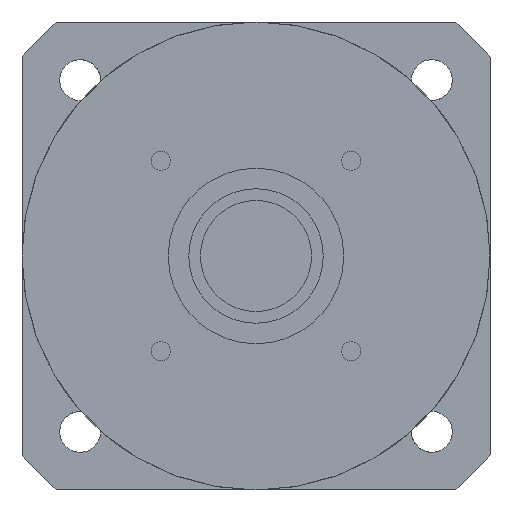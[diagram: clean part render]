
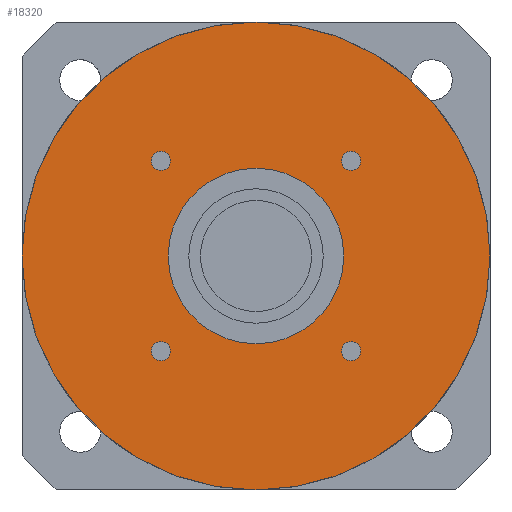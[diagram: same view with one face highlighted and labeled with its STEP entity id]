
A CAD part, left-side view. The second image highlights one B-rep face of the part: STEP entity #18320.
In plain terms, the highlighted planar face has unit normal (-1, 0, 0) as drawn and (0, 0, -1) by its records, which use the part's own axes.
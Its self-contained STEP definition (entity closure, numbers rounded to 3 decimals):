
#13680=CARTESIAN_POINT('',(-17.913,-16.263,-42.));
#13690=VERTEX_POINT('',#13680);
#13740=CARTESIAN_POINT('',(-16.263,-16.263,-42.));
#13750=DIRECTION('',(0.,0.,-1.));
#13760=DIRECTION('',(1.,0.,0.));
#13770=AXIS2_PLACEMENT_3D('',#13740,#13750,#13760);
#13780=CIRCLE('',#13770,1.65);
#13790=CARTESIAN_POINT('',(-14.613,-16.263,-42.));
#13800=VERTEX_POINT('',#13790);
#13810=EDGE_CURVE('',#13800,#13690,#13780,.T.);
#14100=CARTESIAN_POINT('',(14.613,-16.263,-42.));
#14110=VERTEX_POINT('',#14100);
#14140=CARTESIAN_POINT('',(16.263,-16.263,-42.));
#14150=DIRECTION('',(0.,0.,-1.));
#14160=DIRECTION('',(1.,0.,0.));
#14170=AXIS2_PLACEMENT_3D('',#14140,#14150,#14160);
#14180=CIRCLE('',#14170,1.65);
#14190=CARTESIAN_POINT('',(17.913,-16.263,-42.));
#14200=VERTEX_POINT('',#14190);
#14210=EDGE_CURVE('',#14200,#14110,#14180,.T.);
#17440=CARTESIAN_POINT('',(-40.,0.,-42.));
#17450=VERTEX_POINT('',#17440);
#17530=CARTESIAN_POINT('',(40.,0.,-42.));
#17540=VERTEX_POINT('',#17530);
#17570=CARTESIAN_POINT('',(0.,0.,
-42.));
#17580=DIRECTION('',(0.,0.,1.));
#17590=DIRECTION('',(1.,0.,0.));
#17600=AXIS2_PLACEMENT_3D('',#17570,#17580,#17590);
#17610=CIRCLE('',#17600,40.);
#17620=EDGE_CURVE('',#17450,#17540,#17610,.T.);
#17670=CARTESIAN_POINT('',(0.,0.,
-42.));
#17680=DIRECTION('',(0.,0.,-1.));
#17690=DIRECTION('',(1.,0.,0.));
#17700=AXIS2_PLACEMENT_3D('',#17670,#17680,#17690);
#17710=PLANE('',#17700);
#17720=CARTESIAN_POINT('',(-16.263,16.263,-42.));
#17730=DIRECTION('',(0.,0.,-1.));
#17740=DIRECTION('',(1.,0.,0.));
#17750=AXIS2_PLACEMENT_3D('',#17720,#17730,#17740);
#17760=CIRCLE('',#17750,1.65);
#17770=CARTESIAN_POINT('',(-14.613,16.263,-42.));
#17780=VERTEX_POINT('',#17770);
#17790=CARTESIAN_POINT('',(-17.913,16.263,-42.));
#17800=VERTEX_POINT('',#17790);
#17810=EDGE_CURVE('',#17780,#17800,#17760,.T.);
#17820=ORIENTED_EDGE('',*,*,#17810,.F.);
#17830=EDGE_CURVE('',#17800,#17780,#17760,.T.);
#17840=ORIENTED_EDGE('',*,*,#17830,.F.);
#17850=EDGE_LOOP('',(#17840,#17820));
#17860=FACE_BOUND('',#17850,.T.);
#17870=CARTESIAN_POINT('',(0.,0.,
-42.));
#17880=DIRECTION('',(0.,0.,1.));
#17890=DIRECTION('',(1.,0.,0.));
#17900=AXIS2_PLACEMENT_3D('',#17870,#17880,#17890);
#17910=CIRCLE('',#17900,15.);
#17920=CARTESIAN_POINT('',(15.,0.,-42.));
#17930=VERTEX_POINT('',#17920);
#17940=CARTESIAN_POINT('',(-15.,0.,-42.));
#17950=VERTEX_POINT('',#17940);
#17960=EDGE_CURVE('',#17930,#17950,#17910,.T.);
#17970=ORIENTED_EDGE('',*,*,#17960,.T.);
#17980=EDGE_CURVE('',#17950,#17930,#17910,.T.);
#17990=ORIENTED_EDGE('',*,*,#17980,.T.);
#18000=EDGE_LOOP('',(#17990,#17970));
#18010=FACE_BOUND('',#18000,.T.);
#18020=CARTESIAN_POINT('',(16.263,16.263,-42.));
#18030=DIRECTION('',(0.,0.,-1.));
#18040=DIRECTION('',(1.,0.,0.));
#18050=AXIS2_PLACEMENT_3D('',#18020,#18030,#18040);
#18060=CIRCLE('',#18050,1.65);
#18070=CARTESIAN_POINT('',(17.913,16.263,-42.));
#18080=VERTEX_POINT('',#18070);
#18090=CARTESIAN_POINT('',(14.613,16.263,-42.));
#18100=VERTEX_POINT('',#18090);
#18110=EDGE_CURVE('',#18080,#18100,#18060,.T.);
#18120=ORIENTED_EDGE('',*,*,#18110,.F.);
#18130=EDGE_CURVE('',#18100,#18080,#18060,.T.);
#18140=ORIENTED_EDGE('',*,*,#18130,.F.);
#18150=EDGE_LOOP('',(#18140,#18120));
#18160=FACE_BOUND('',#18150,.T.);
#18170=ORIENTED_EDGE('',*,*,#14210,.F.);
#18180=EDGE_CURVE('',#14110,#14200,#14180,.T.);
#18190=ORIENTED_EDGE('',*,*,#18180,.F.);
#18200=EDGE_LOOP('',(#18190,#18170));
#18210=FACE_BOUND('',#18200,.T.);
#18220=ORIENTED_EDGE('',*,*,#13810,.F.);
#18230=EDGE_CURVE('',#13690,#13800,#13780,.T.);
#18240=ORIENTED_EDGE('',*,*,#18230,.F.);
#18250=EDGE_LOOP('',(#18240,#18220));
#18260=FACE_BOUND('',#18250,.T.);
#18270=EDGE_CURVE('',#17540,#17450,#17610,.T.);
#18280=ORIENTED_EDGE('',*,*,#18270,.F.);
#18290=ORIENTED_EDGE('',*,*,#17620,.F.);
#18300=EDGE_LOOP('',(#18290,#18280));
#18310=FACE_OUTER_BOUND('',#18300,.T.);
#18320=ADVANCED_FACE('',(#17860,#18010,#18160,#18210,#18260,#18310),
#17710,.T.);
